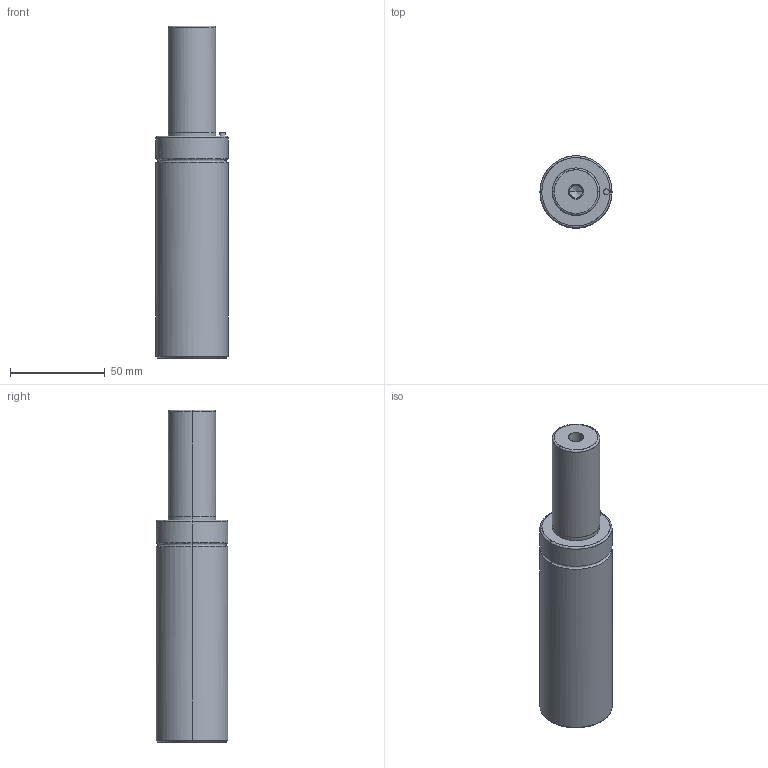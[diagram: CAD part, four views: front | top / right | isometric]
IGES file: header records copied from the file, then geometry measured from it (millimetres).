
Global section: file name: E:\UnigraphicsGraphicData\MISUMI_PRESS-PARTS\IGES\3d_gsm38-56_03916_r00.igs; native system: NX V5.0; preprocessor: UGS NX IGES V5.0; author: MISUMI; date: 20110105.160813; units: millimetre
Bounding box: 38 x 37.95 x 175 mm (x, y, z)
Surface area: 21768.4 mm2 (no closed solid volume)
Topology: 0 solids, 0 shells, 50 faces, 328 edges, 320 vertices
Faces by surface type: bspline 50
